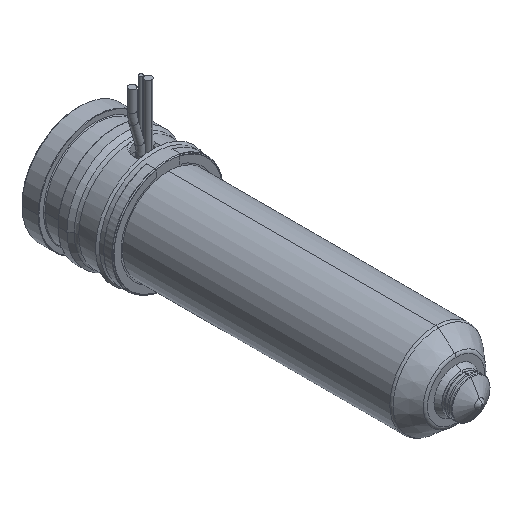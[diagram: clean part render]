
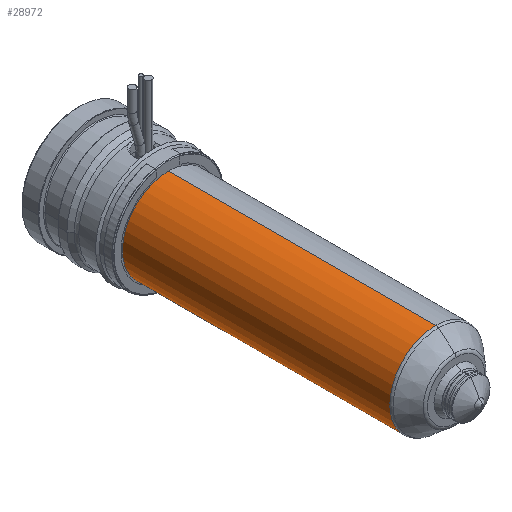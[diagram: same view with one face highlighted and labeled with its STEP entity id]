
A CAD part, isometric view. The second image highlights one B-rep face of the part: STEP entity #28972.
In plain terms, the highlighted cylindrical face has radius 12 mm (diameter 24 mm), a partial arc.
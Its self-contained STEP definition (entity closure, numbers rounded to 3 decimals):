
#28457=CARTESIAN_POINT('',(0.,-24.,0.));
#28458=DIRECTION('',(0.,1.,0.));
#28459=DIRECTION('',(0.,0.,-1.));
#28460=AXIS2_PLACEMENT_3D('',#28457,#28458,#28459);
#28465=DIRECTION('',(0.,1.,0.));
#28466=VECTOR('',#28465,69.736);
#28467=CARTESIAN_POINT('',(0.,-93.736,12.));
#28468=LINE('',#28467,#28466);
#28480=DIRECTION('',(0.,1.,0.));
#28481=VECTOR('',#28480,69.736);
#28482=CARTESIAN_POINT('',(0.,-93.736,-12.));
#28483=LINE('',#28482,#28481);
#28511=CARTESIAN_POINT('',(0.,-93.736,0.));
#28512=DIRECTION('',(0.,-1.,0.));
#28513=DIRECTION('',(0.,0.,1.));
#28514=AXIS2_PLACEMENT_3D('',#28511,#28512,#28513);
#28841=CARTESIAN_POINT('',(0.,-93.736,12.));
#28842=CARTESIAN_POINT('',(0.,-24.,12.));
#28843=VERTEX_POINT('',#28841);
#28844=VERTEX_POINT('',#28842);
#28845=CARTESIAN_POINT('',(0.,-93.736,-12.));
#28846=CARTESIAN_POINT('',(0.,-24.,-12.));
#28847=VERTEX_POINT('',#28845);
#28848=VERTEX_POINT('',#28846);
#28958=CARTESIAN_POINT('',(0.,-15.7,0.));
#28959=DIRECTION('',(0.,-1.,0.));
#28960=DIRECTION('',(0.,0.,1.));
#28961=AXIS2_PLACEMENT_3D('',#28958,#28959,#28960);
#28962=CYLINDRICAL_SURFACE('',#28961,12.);
#28964=ORIENTED_EDGE('',*,*,#28963,.F.);
#28966=ORIENTED_EDGE('',*,*,#28965,.T.);
#28968=ORIENTED_EDGE('',*,*,#28967,.T.);
#28969=ORIENTED_EDGE('',*,*,#28951,.T.);
#28970=EDGE_LOOP('',(#28964,#28966,#28968,#28969));
#28971=FACE_OUTER_BOUND('',#28970,.F.);
#28972=ADVANCED_FACE('',(#28971),#28962,.T.);
#28461=CIRCLE('',#28460,12.);
#28515=CIRCLE('',#28514,12.);
#28951=EDGE_CURVE('',#28848,#28844,#28461,.T.);
#28963=EDGE_CURVE('',#28843,#28844,#28468,.T.);
#28965=EDGE_CURVE('',#28843,#28847,#28515,.T.);
#28967=EDGE_CURVE('',#28847,#28848,#28483,.T.);
